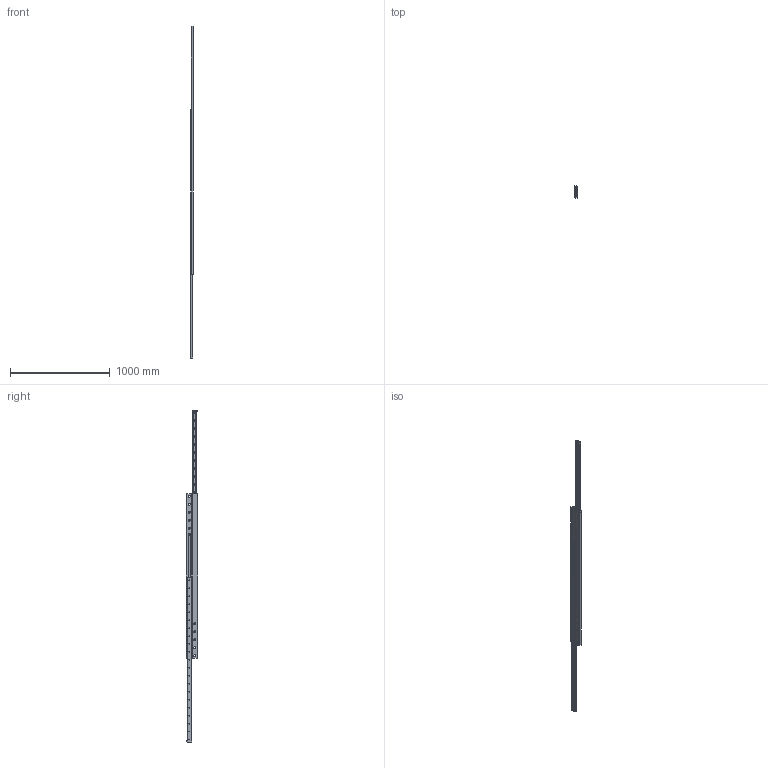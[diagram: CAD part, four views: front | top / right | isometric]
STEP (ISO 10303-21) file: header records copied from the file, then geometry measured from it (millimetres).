
FILE_DESCRIPTION(('STEP AP214'),'1');
FILE_NAME('rail_dss43-1650_01.stp','2017-04-17T03:59:32',('TraceParts'),('TraceParts S.A.'),'Spatial InterOp 3D',' ',' ');
FILE_SCHEMA(('automotive_design'));
Length unit declared in the file: millimetre
Products named in the file (3): rail_dss43-1650_01_1; rail_dss43-1650_01_2; rail_dss43-1650_01_3
Bounding box: 28 x 120 x 3336 mm (x, y, z)
Volume: 2936210.9 mm3; surface area: 1178169 mm2
Topology: 3 solids, 3 shells, 378 faces, 1002 edges, 640 vertices
Faces by surface type: cylinder 156, plane 138, cone 84
Entity records: 12019 total; most frequent: DIRECTION 2176, CARTESIAN_POINT 2023, ORIENTED_EDGE 2004, EDGE_CURVE 1002, AXIS2_PLACEMENT_3D 793, VERTEX_POINT 640, LINE 590, VECTOR 590
